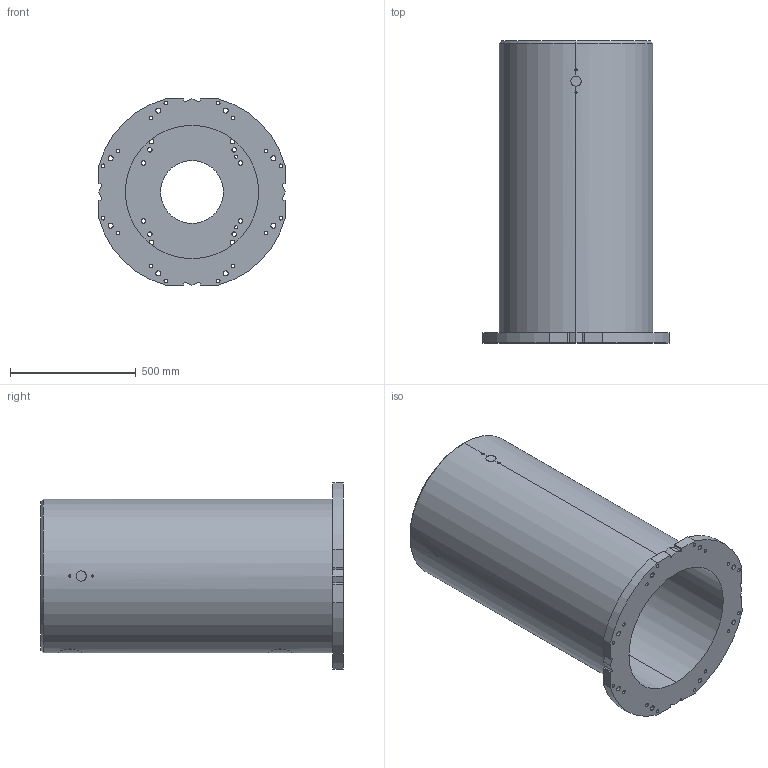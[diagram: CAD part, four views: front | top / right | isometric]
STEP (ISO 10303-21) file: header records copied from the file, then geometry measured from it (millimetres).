
FILE_DESCRIPTION (( 'STEP AP214' ), '1' );
FILE_NAME ('M-1200.STEP', '2025-12-09T14:46:57', ( '' ), ( '' ), 'SwSTEP 2.0', 'SolidWorks 2022', '' );
FILE_SCHEMA (( 'AUTOMOTIVE_DESIGN' ));
Length unit declared in the file: millimetre
Products named in the file (1): M-1200
Bounding box: 740 x 1200 x 740 mm (x, y, z)
Volume: 98375817.9 mm3; surface area: 5153697.9 mm2
Topology: 1 solids, 1 shells, 219 faces, 609 edges, 402 vertices
Faces by surface type: cylinder 161, plane 28, bspline 24, cone 6
Entity records: 12963 total; most frequent: CARTESIAN_POINT 6398, ORIENTED_EDGE 1210, DIRECTION 1049, EDGE_CURVE 605, AXIS2_PLACEMENT_3D 410, VERTEX_POINT 402, EDGE_LOOP 311, VECTOR 229
